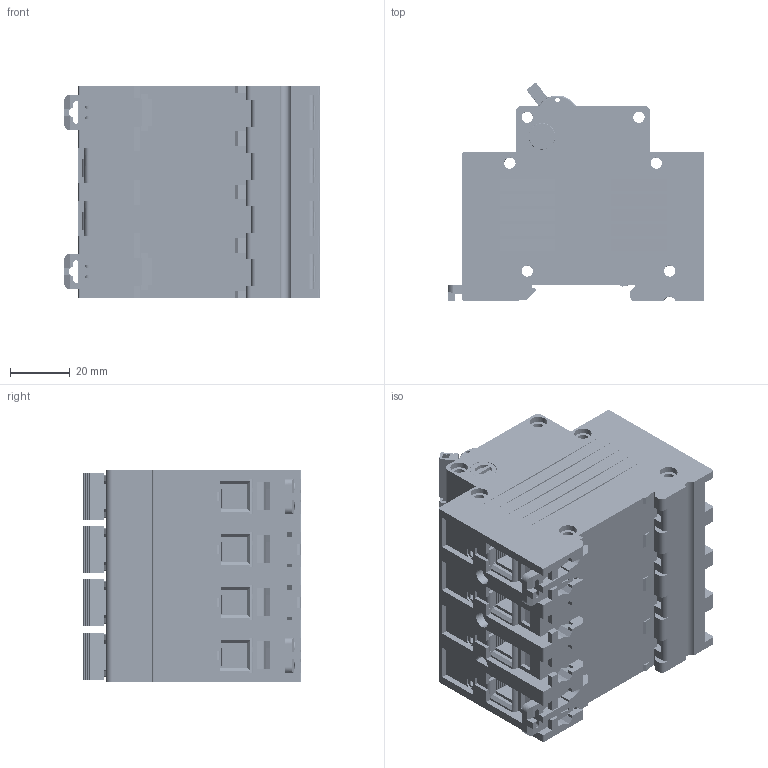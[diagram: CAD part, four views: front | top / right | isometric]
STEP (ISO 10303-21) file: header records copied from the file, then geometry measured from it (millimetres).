
FILE_DESCRIPTION (( 'STEP AP203' ), '1' );
FILE_NAME ('BKN4P(覃誹蹟隊諳党蜊).STEP', '2016-04-06T00:50:24', ( 'User' ), ( 'Company' ), 'SwSTEP 2.0', 'SolidWorks 2013', '' );
FILE_SCHEMA (( 'CONFIG_CONTROL_DESIGN' ));
Length unit declared in the file: inch
Products named in the file (14): 諉盄蹟隊901.1300; 假蚾縐148.1300; 諉盄え516.1300; BKN1P(覃誹蹟隊諳党蜊); 諉盄釱574.1300; BKN多极盖（调节螺钉口修改）; 噙揖裝550.1301; 装配体多极(调节螺钉口修改); 忒梟253.1300; BKN4P(覃誹蹟隊諳党蜊); 封口塞; BKN多极基座（调节螺钉口修改）; BKN基座（调节螺钉口修改）; BKN裔ㄗ覃誹蹟隊諳党蜊ㄘ
Assembly tree (43 placements, depth 3):
  BKN4P(覃誹蹟隊諳党蜊)
    BKN裔ㄗ覃誹蹟隊諳党蜊ㄘ
    諉盄蹟隊901.1300  x6
    諉盄え516.1300  x3
    諉盄釱574.1300  x6
    噙揖裝550.1301  x3
    忒梟253.1300  x3
    封口塞
    BKN多极基座（调节螺钉口修改）
    BKN1P(覃誹蹟隊諳党蜊)
      BKN基座（调节螺钉口修改）
      諉盄蹟隊901.1300  x2
      諉盄え516.1300
      諉盄釱574.1300  x2
      噙揖裝550.1301
      忒梟253.1300
      封口塞  x2
      BKN裔ㄗ覃誹蹟隊諳党蜊ㄘ
      假蚾縐148.1300
    BKN多极盖（调节螺钉口修改）
    装配体多极(调节螺钉口修改)  x2
      BKN多极盖（调节螺钉口修改）
      BKN多极基座（调节螺钉口修改）
    假蚾縐148.1300
Bounding box: 85.74 x 73.2 x 71.2 mm (x, y, z)
Volume: 83704.6 mm3; surface area: 189742.1 mm2
Topology: 43 solids, 68 shells, 9462 faces, 25955 edges, 16889 vertices
Faces by surface type: plane 6348, cylinder 2787, torus 187, cone 124, sphere 16
Entity records: 117035 total; most frequent: CARTESIAN_POINT 20758, ORIENTED_EDGE 19854, DIRECTION 19561, EDGE_CURVE 9939, VECTOR 7255, LINE 7255, VERTEX_POINT 6516, AXIS2_PLACEMENT_3D 6153
